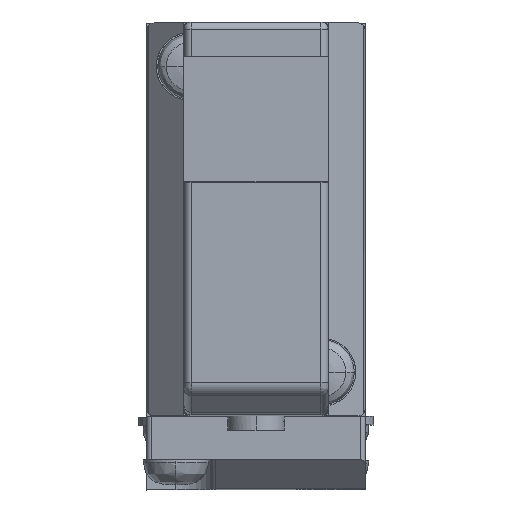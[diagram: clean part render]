
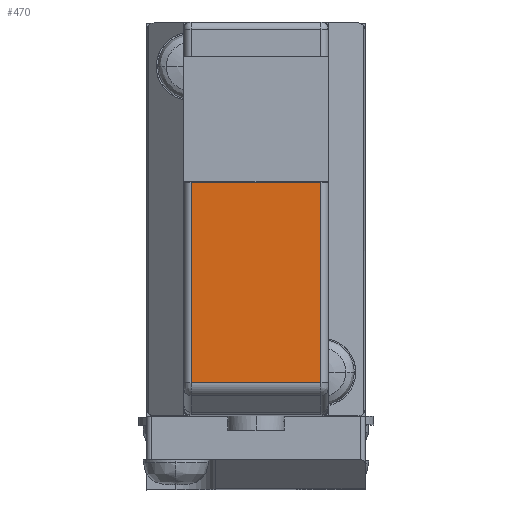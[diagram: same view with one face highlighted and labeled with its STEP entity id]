
A CAD part, top view. The second image highlights one B-rep face of the part: STEP entity #470.
In plain terms, the highlighted planar face has unit normal (0, 0, 1).
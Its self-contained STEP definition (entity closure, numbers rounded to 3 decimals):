
#470=ADVANCED_FACE('',(#2647),#2646,.F.);
#2646=PLANE('',#4601);
#2647=FACE_OUTER_BOUND('',#4602,.T.);
#4598=CARTESIAN_POINT('',(5.34,-26.133,27.4));
#4599=DIRECTION('',(0.,0.,-1.));
#4600=DIRECTION('',(-1.,0.,0.));
#4601=AXIS2_PLACEMENT_3D('',#4598,#4599,#4600);
#4602=EDGE_LOOP('',(#5994,#5995,#5996,#5997));
#5994=ORIENTED_EDGE('',*,*,#6653,.F.);
#5995=ORIENTED_EDGE('',*,*,#6710,.T.);
#5996=ORIENTED_EDGE('',*,*,#6798,.T.);
#5997=ORIENTED_EDGE('',*,*,#6733,.T.);
#6653=EDGE_CURVE('',#9490,#9497,#9498,.T.);
#6710=EDGE_CURVE('',#9490,#9879,#9886,.T.);
#6733=EDGE_CURVE('',#10017,#9497,#10036,.T.);
#6798=EDGE_CURVE('',#9879,#10017,#10462,.T.);
#9490=VERTEX_POINT('',#12807);
#9497=VERTEX_POINT('',#12812);
#9498=LINE('',#12813,#12814);
#9879=VERTEX_POINT('',#13051);
#9886=LINE('',#13056,#13057);
#10017=VERTEX_POINT('',#13139);
#10036=LINE('',#13152,#13153);
#10462=LINE('',#13397,#13398);
#12807=CARTESIAN_POINT('',(-4.45,-11.,27.4));
#12812=CARTESIAN_POINT('',(4.45,-11.,27.4));
#12813=CARTESIAN_POINT('',(-4.45,-11.,27.4));
#12814=VECTOR('',#12815,8.9);
#12815=DIRECTION('',(1.,0.,0.));
#13051=CARTESIAN_POINT('',(-4.45,-24.758,27.4));
#13056=CARTESIAN_POINT('',(-4.45,-11.,27.4));
#13057=VECTOR('',#13058,13.758);
#13058=DIRECTION('',(0.,-1.,0.));
#13139=CARTESIAN_POINT('',(4.45,-24.758,27.4));
#13152=CARTESIAN_POINT('',(4.45,-24.758,27.4));
#13153=VECTOR('',#13154,13.758);
#13154=DIRECTION('',(0.,1.,0.));
#13397=CARTESIAN_POINT('',(-4.45,-24.758,27.4));
#13398=VECTOR('',#13399,8.9);
#13399=DIRECTION('',(1.,0.,0.));
